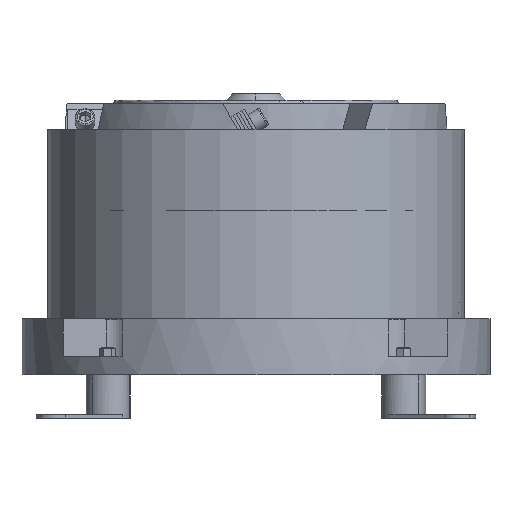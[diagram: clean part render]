
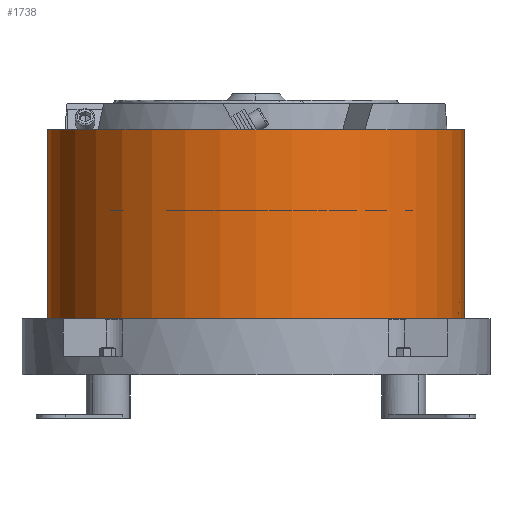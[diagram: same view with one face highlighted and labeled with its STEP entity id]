
A CAD part, front view. The second image highlights one B-rep face of the part: STEP entity #1738.
In plain terms, the highlighted cylindrical face has radius 193 mm (diameter 386 mm), a full revolution.
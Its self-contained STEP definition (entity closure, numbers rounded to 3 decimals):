
#595=FACE_BOUND('',#3035,.T.);
#596=FACE_BOUND('',#3036,.T.);
#827=CYLINDRICAL_SURFACE('',#11565,193.);
#1738=ADVANCED_FACE('',(#595,#596),#827,.T.);
#3035=EDGE_LOOP('',(#5514));
#3036=EDGE_LOOP('',(#5515));
#3717=CIRCLE('',#11559,193.);
#3719=CIRCLE('',#11562,193.);
#5514=ORIENTED_EDGE('',*,*,#8702,.F.);
#5515=ORIENTED_EDGE('',*,*,#8700,.T.);
#7467=VERTEX_POINT('',#18610);
#7469=VERTEX_POINT('',#18615);
#8700=EDGE_CURVE('',#7467,#7467,#3717,.T.);
#8702=EDGE_CURVE('',#7469,#7469,#3719,.T.);
#11559=AXIS2_PLACEMENT_3D('',#18609,#13737,#13738);
#11562=AXIS2_PLACEMENT_3D('',#18614,#13743,#13744);
#11565=AXIS2_PLACEMENT_3D('',#18619,#13749,#13750);
#13737=DIRECTION('',(0.,0.,-1.));
#13738=DIRECTION('',(-1.,0.,0.));
#13743=DIRECTION('',(0.,0.,-1.));
#13744=DIRECTION('',(-1.,0.,0.));
#13749=DIRECTION('',(0.,0.,1.));
#13750=DIRECTION('',(1.,0.,0.));
#18609=CARTESIAN_POINT('',(-105.451,-2.447,117.25));
#18610=CARTESIAN_POINT('',(-298.451,-2.447,117.25));
#18614=CARTESIAN_POINT('',(-105.451,-2.447,-57.75));
#18615=CARTESIAN_POINT('',(-298.451,-2.447,-57.75));
#18619=CARTESIAN_POINT('',(-105.451,-2.447,-57.75));
